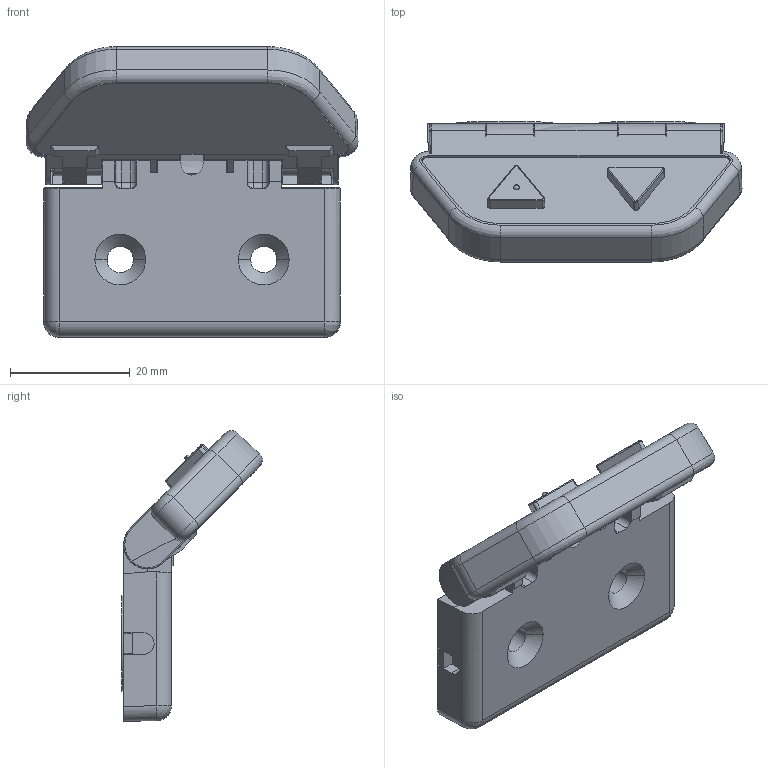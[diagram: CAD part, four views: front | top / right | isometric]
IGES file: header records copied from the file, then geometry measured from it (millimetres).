
Start section:  PTC IGES file: dpa.igs
Global section: file name: dpa.igs; native system: Pro/ENGINEER by Parametric Technology Corporation; preprocessor: 2005110; author: KH; organization: Unknown; date: 060209.072027; units: millimetre
Bounding box: 55.51 x 23.46 x 48.59 mm (x, y, z)
Volume: 18582.1 mm3; surface area: 9689 mm2
Topology: 2 solids, 2 shells, 394 faces, 1008 edges, 624 vertices
Faces by surface type: bspline 216, revolution 174, extrusion 4
